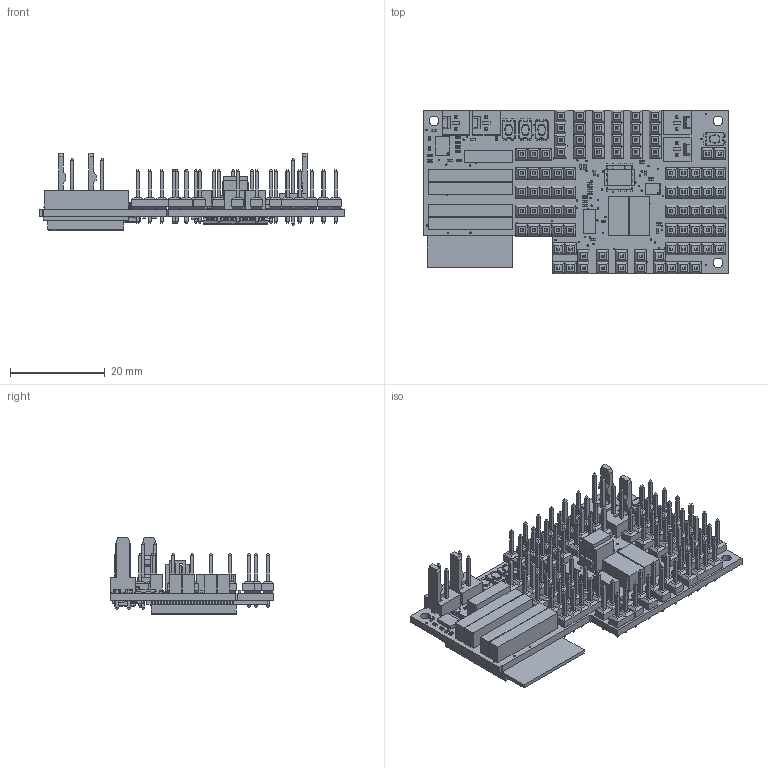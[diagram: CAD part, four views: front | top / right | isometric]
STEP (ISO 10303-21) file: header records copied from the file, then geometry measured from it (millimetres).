
FILE_DESCRIPTION(/* description */ (''),/* implementation_level */ '2;1');
FILE_NAME(/* name */ 'C:/Users/priba/Documents/Temp/Export/mrm-stm4c.step',/* time_stamp */ '2019-09-09T13:04:24+02:00',/* author */ (''),/* organization */ (''),/* preprocessor_version */ 'ST-DEVELOPER v18',/* originating_system */ 'Autodesk Translation Framework v8.6.0.1094',/* authorisation */ '');
FILE_SCHEMA (('AUTOMOTIVE_DESIGN { 1 0 10303 214 3 1 1 }'));
Products named in the file (32): mrm-stm4c; PCB Component; Board; 10 nF; MOLEX_22-27-2021; SAMTEC_FTSH-105-01-L-DV-K-A-P; SWITCH-SPST; INFINEON_TLE9250XLEXUMA1; JST_BM04B-GHK-TBT; TI_TPS25942LRVCT; Body; ThermalPin; PinsArrayLR; PinsArrayTB; 10 kOhm; 1X03; BOSCH_BNO055; 1X02; FIDUCIAL1X2; 1X02_SMD_STRAIGHT_ALT; JUMPER-SMT_2_NC_PASTE_NO-SILK; STM32F446VCT6; Body (1); PinsArrayLR (1); PinsArrayTB (1); ESPRESSIF_ESP32-WROOM-32D_(8MB); 1X04; 1X05; 1X07_SMD_ALT; 1X04_SMD_STRAIGHT_ALT; CHIPLED_0402; 1.5 kOhm
Assembly tree (109 placements, depth 4):
  mrm-stm4c
    PCB Component
      Board
      10 nF  x19
      MOLEX_22-27-2021  x4
      SAMTEC_FTSH-105-01-L-DV-K-A-P
      SWITCH-SPST  x4
      INFINEON_TLE9250XLEXUMA1
      JST_BM04B-GHK-TBT  x2
      TI_TPS25942LRVCT
        Body
        ThermalPin
        PinsArrayLR
        PinsArrayTB
      10 kOhm  x18
      1X03  x2
      BOSCH_BNO055
      1X02  x10
      FIDUCIAL1X2  x6
      1X02_SMD_STRAIGHT_ALT
      JUMPER-SMT_2_NC_PASTE_NO-SILK  x3
      STM32F446VCT6
        Body (1)
        PinsArrayLR (1)
        PinsArrayTB (1)
      ESPRESSIF_ESP32-WROOM-32D_(8MB)
      1X04  x5
      1X05  x9
      1X07_SMD_ALT  x4
      1X04_SMD_STRAIGHT_ALT
      CHIPLED_0402  x3
      1.5 kOhm  x3
Bounding box: 64.6 x 34.64 x 16.42 mm (x, y, z)
Volume: 7769 mm3; surface area: 14616.3 mm2
Topology: 287 solids, 287 shells, 9841 faces, 25373 edges, 16237 vertices
Faces by surface type: plane 7151, cylinder 2016, sphere 514, bspline 112, torus 48
Full cylindrical faces by diameter (mm): 0.3 x162, 0.375 x1, 0.889 x2, 1.016 x91, 1.11 x8, 1.75 x1, 2 x3
Entity records: 132862 total; most frequent: CARTESIAN_POINT 24880, ORIENTED_EDGE 21790, DIRECTION 20851, EDGE_CURVE 10895, LINE 8985, VECTOR 8985, VERTEX_POINT 7100, AXIS2_PLACEMENT_3D 5933
